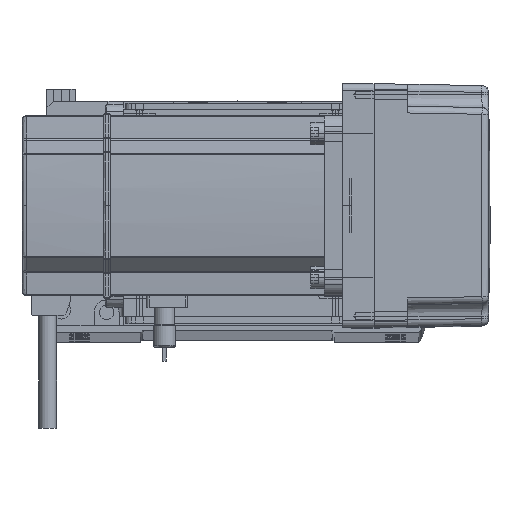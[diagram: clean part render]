
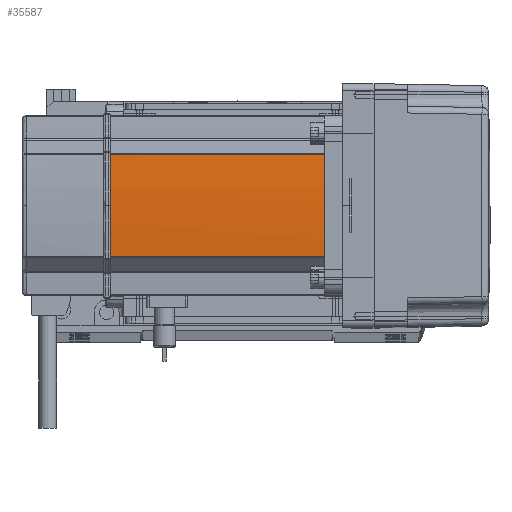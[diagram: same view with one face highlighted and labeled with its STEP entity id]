
A CAD part, top view. The second image highlights one B-rep face of the part: STEP entity #35587.
In plain terms, the highlighted cylindrical face has radius 270 mm (diameter 540 mm), a partial arc.
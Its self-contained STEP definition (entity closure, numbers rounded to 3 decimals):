
#106 = EDGE_CURVE ( 'NONE', #1655, #61069, #11288, .T. ) ;
#1537 = VERTEX_POINT ( 'NONE', #55054 ) ;
#1655 = VERTEX_POINT ( 'NONE', #57422 ) ;
#4777 = DIRECTION ( 'NONE',  ( 0., 0., 1. ) ) ;
#5709 = EDGE_LOOP ( 'NONE', ( #48340, #24639, #17859, #5814, #9727 ) ) ;
#5814 = ORIENTED_EDGE ( 'NONE', *, *, #26184, .F. ) ;
#9727 = ORIENTED_EDGE ( 'NONE', *, *, #51759, .T. ) ;
#9776 = VECTOR ( 'NONE', #49363, 1000. ) ;
#10065 = AXIS2_PLACEMENT_3D ( 'NONE', #44040, #19416, #39495 ) ;
#10765 = DIRECTION ( 'NONE',  ( 1., 0., 0. ) ) ;
#11288 = CIRCLE ( 'NONE', #21550, 270. ) ;
#12050 = LINE ( 'NONE', #15723, #9776 ) ;
#14231 = CARTESIAN_POINT ( 'NONE',  ( 230., 0., 0. ) ) ;
#15723 = CARTESIAN_POINT ( 'NONE',  ( -39.042, -22.724, 0. ) ) ;
#15852 = CARTESIAN_POINT ( 'NONE',  ( -39.042, 22.724, 134. ) ) ;
#16939 = CYLINDRICAL_SURFACE ( 'NONE', #48235, 270. ) ;
#17859 = ORIENTED_EDGE ( 'NONE', *, *, #36022, .T. ) ;
#18705 = VERTEX_POINT ( 'NONE', #47519 ) ;
#19416 = DIRECTION ( 'NONE',  ( 0., 0., -1. ) ) ;
#21550 = AXIS2_PLACEMENT_3D ( 'NONE', #40470, #55344, #10765 ) ;
#24639 = ORIENTED_EDGE ( 'NONE', *, *, #106, .T. ) ;
#26184 = EDGE_CURVE ( 'NONE', #1537, #44658, #62575, .T. ) ;
#28436 = FACE_OUTER_BOUND ( 'NONE', #5709, .T. ) ;
#35587 = ADVANCED_FACE ( 'NONE', ( #28436 ), #16939, .T. ) ;
#36022 = EDGE_CURVE ( 'NONE', #61069, #44658, #43705, .T. ) ;
#38330 = CARTESIAN_POINT ( 'NONE',  ( 230., 0., 134. ) ) ;
#38580 = DIRECTION ( 'NONE',  ( 1., 0., 0. ) ) ;
#39495 = DIRECTION ( 'NONE',  ( 1., 0., 0. ) ) ;
#40189 = CIRCLE ( 'NONE', #44924, 270. ) ;
#40470 = CARTESIAN_POINT ( 'NONE',  ( 230., 0., 134. ) ) ;
#41276 = CARTESIAN_POINT ( 'NONE',  ( -39.042, 22.724, 39. ) ) ;
#42811 = CARTESIAN_POINT ( 'NONE',  ( -39.042, 22.724, 0. ) ) ;
#43705 = LINE ( 'NONE', #42811, #60586 ) ;
#44040 = CARTESIAN_POINT ( 'NONE',  ( 230., 0., 39. ) ) ;
#44658 = VERTEX_POINT ( 'NONE', #41276 ) ;
#44924 = AXIS2_PLACEMENT_3D ( 'NONE', #38330, #58320, #58742 ) ;
#47519 = CARTESIAN_POINT ( 'NONE',  ( -39.042, -22.724, 134. ) ) ;
#48235 = AXIS2_PLACEMENT_3D ( 'NONE', #14231, #4777, #38580 ) ;
#48340 = ORIENTED_EDGE ( 'NONE', *, *, #61657, .T. ) ;
#49363 = DIRECTION ( 'NONE',  ( 0., 0., 1. ) ) ;
#51759 = EDGE_CURVE ( 'NONE', #1537, #18705, #12050, .T. ) ;
#55054 = CARTESIAN_POINT ( 'NONE',  ( -39.042, -22.724, 39. ) ) ;
#55344 = DIRECTION ( 'NONE',  ( 0., 0., -1. ) ) ;
#57422 = CARTESIAN_POINT ( 'NONE',  ( -40., 0., 134. ) ) ;
#58286 = DIRECTION ( 'NONE',  ( 0., 0., -1. ) ) ;
#58320 = DIRECTION ( 'NONE',  ( 0., 0., -1. ) ) ;
#58742 = DIRECTION ( 'NONE',  ( 1., 0., 0. ) ) ;
#60586 = VECTOR ( 'NONE', #58286, 1000. ) ;
#61069 = VERTEX_POINT ( 'NONE', #15852 ) ;
#61657 = EDGE_CURVE ( 'NONE', #18705, #1655, #40189, .T. ) ;
#62575 = CIRCLE ( 'NONE', #10065, 270. ) ;
